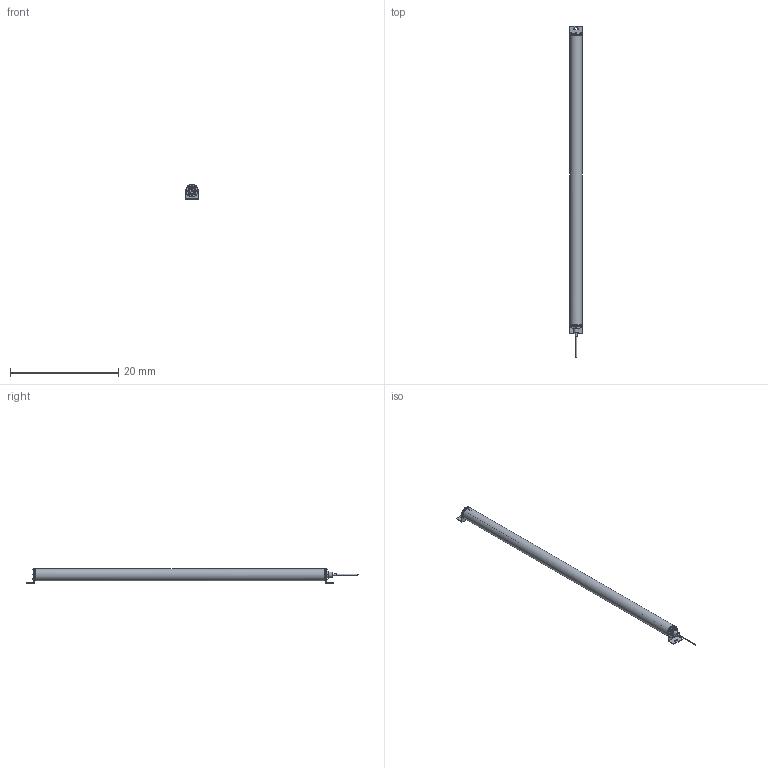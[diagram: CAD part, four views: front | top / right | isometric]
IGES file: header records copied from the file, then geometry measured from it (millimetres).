
Start section:  Autodesk DirectConnect version 7.0.27.0 ---- IGES version 5.3
Global section: file name: C:\ACADFILES\MG_PYLONS\CUSTOMER_FILES\MG-52-PYLON_3D_SMB_PT.iges; native system: Autodesk DirectConnect 7.0.27.0; preprocessor: 7.0.27.0; author: ENGINEERMAIN; organization: Unknown; date: 20150810.142805; units: millimetre
Bounding box: 2.26 x 61.44 x 2.75 mm (x, y, z)
Surface area: 1567.2 mm2 (no closed solid volume)
Topology: 0 solids, 0 shells, 784 faces, 4052 edges, 4055 vertices
Faces by surface type: bspline 784
